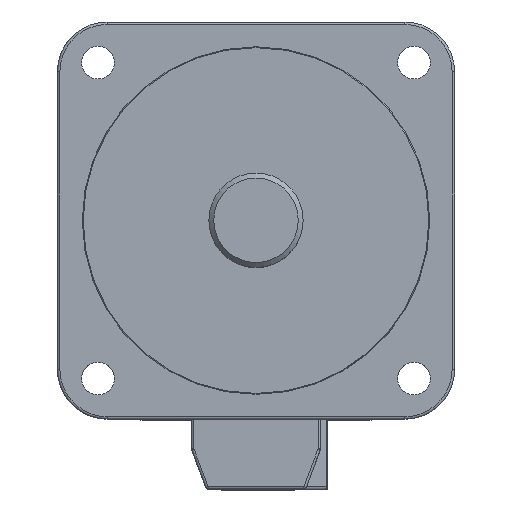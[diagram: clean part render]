
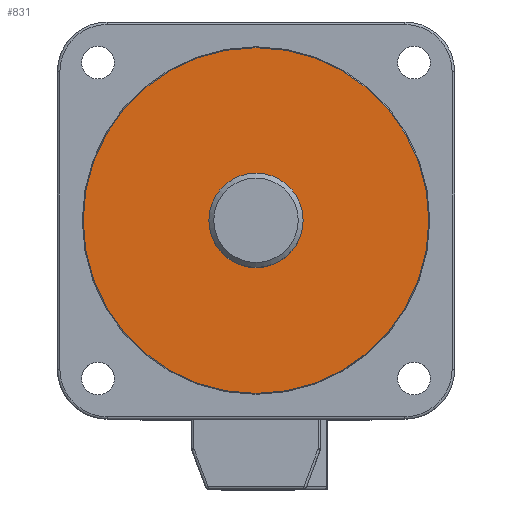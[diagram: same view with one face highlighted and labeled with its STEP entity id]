
A CAD part, top view. The second image highlights one B-rep face of the part: STEP entity #831.
In plain terms, the highlighted planar face has unit normal (0, 0, 1).
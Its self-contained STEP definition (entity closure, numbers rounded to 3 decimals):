
#831=ADVANCED_FACE('',(#2189,#2190),#1222,.F.);
#1222=PLANE('',#6260);
#2189=FACE_BOUND('',#2222,.T.);
#2190=FACE_BOUND('',#2223,.T.);
#2222=EDGE_LOOP('',(#2654));
#2223=EDGE_LOOP('',(#2655));
#2654=ORIENTED_EDGE('',*,*,#4959,.T.);
#2655=ORIENTED_EDGE('',*,*,#4955,.F.);
#4434=VERTEX_POINT('',#9168);
#4438=VERTEX_POINT('',#9179);
#4955=EDGE_CURVE('',#4434,#4434,#5835,.T.);
#4959=EDGE_CURVE('',#4438,#4438,#5839,.T.);
#5835=CIRCLE('',#6252,9.5);
#5839=CIRCLE('',#6259,34.818);
#6252=AXIS2_PLACEMENT_3D('',#9167,#7099,#7100);
#6259=AXIS2_PLACEMENT_3D('',#9178,#7113,#7114);
#6260=AXIS2_PLACEMENT_3D('',#9180,#7115,#7116);
#7099=DIRECTION('',(0.,0.,1.));
#7100=DIRECTION('',(1.,0.,0.));
#7113=DIRECTION('',(0.,0.,1.));
#7114=DIRECTION('',(-1.,0.,0.));
#7115=DIRECTION('',(0.,0.,-1.));
#7116=DIRECTION('',(-1.,0.,0.));
#9167=CARTESIAN_POINT('',(0.,0.,0.));
#9168=CARTESIAN_POINT('',(9.5,0.,0.));
#9178=CARTESIAN_POINT('',(0.,0.,0.));
#9179=CARTESIAN_POINT('',(-34.818,0.,0.));
#9180=CARTESIAN_POINT('',(0.,0.,0.));
